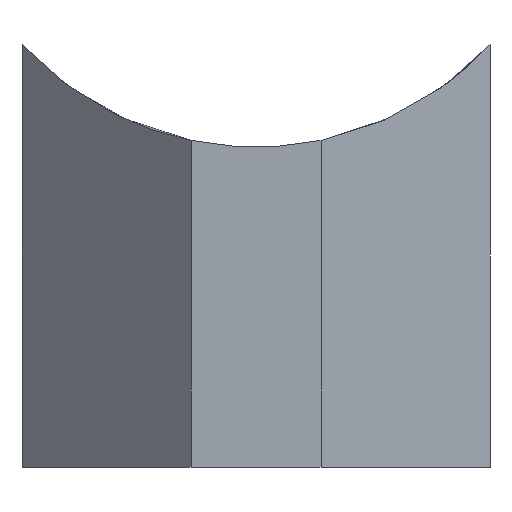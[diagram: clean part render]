
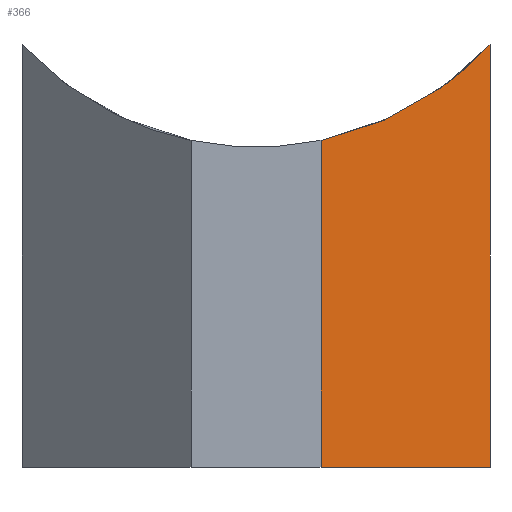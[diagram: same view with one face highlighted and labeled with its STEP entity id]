
A CAD part, front view. The second image highlights one B-rep face of the part: STEP entity #366.
In plain terms, the highlighted planar face has unit normal (0.707, -0.707, 0).
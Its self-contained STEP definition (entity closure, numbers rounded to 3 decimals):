
#12 = CARTESIAN_POINT ( 'NONE',  ( -27.5, -18.5, -19.3 ) ) ;
#37 = ORIENTED_EDGE ( 'NONE', *, *, #287, .F. ) ;
#50 = ORIENTED_EDGE ( 'NONE', *, *, #138, .T. ) ;
#61 = CARTESIAN_POINT ( 'NONE',  ( -27.5, -18.5, -22.51 ) ) ;
#63 = VECTOR ( 'NONE', #460, 1000. ) ;
#72 = VERTEX_POINT ( 'NONE', #232 ) ;
#82 = CARTESIAN_POINT ( 'NONE',  ( -22.746, -13.746, -4.942 ) ) ;
#138 = EDGE_CURVE ( 'NONE', #304, #210, #546, .T. ) ;
#139 = CARTESIAN_POINT ( 'NONE',  ( -21., -12., -22.51 ) ) ;
#141 = DIRECTION ( 'NONE',  ( 0., 0., 1. ) ) ;
#145 = DIRECTION ( 'NONE',  ( 0.707, 0.707, 0. ) ) ;
#210 = VERTEX_POINT ( 'NONE', #536 ) ;
#232 = CARTESIAN_POINT ( 'NONE',  ( -27.5, -18.5, -6.732 ) ) ;
#277 = EDGE_LOOP ( 'NONE', ( #283, #50, #37, #305 ) ) ;
#283 = ORIENTED_EDGE ( 'NONE', *, *, #526, .F. ) ;
#287 = EDGE_CURVE ( 'NONE', #72, #210, #293, .T. ) ;
#293 =( BOUNDED_CURVE ( )  B_SPLINE_CURVE ( 3, ( #458, #504, #82, #415 ),
 .UNSPECIFIED., .F., .F. ) 
 B_SPLINE_CURVE_WITH_KNOTS ( ( 4, 4 ),
 ( 4.918, 5.537 ),
 .UNSPECIFIED. ) 
 CURVE ( )  GEOMETRIC_REPRESENTATION_ITEM ( )  RATIONAL_B_SPLINE_CURVE ( ( 1., 0.968, 0.968, 1. ) ) 
 REPRESENTATION_ITEM ( '' )  );
#298 = VECTOR ( 'NONE', #393, 1000. ) ;
#304 = VERTEX_POINT ( 'NONE', #466 ) ;
#305 = ORIENTED_EDGE ( 'NONE', *, *, #357, .F. ) ;
#330 = LINE ( 'NONE', #424, #63 ) ;
#332 = CARTESIAN_POINT ( 'NONE',  ( -21., -12., -19.3 ) ) ;
#339 = VERTEX_POINT ( 'NONE', #12 ) ;
#357 = EDGE_CURVE ( 'NONE', #339, #72, #330, .T. ) ;
#365 = LINE ( 'NONE', #332, #298 ) ;
#366 = ADVANCED_FACE ( 'NONE', ( #419 ), #557, .T. ) ;
#393 = DIRECTION ( 'NONE',  ( -0.707, -0.707, 0. ) ) ;
#415 = CARTESIAN_POINT ( 'NONE',  ( -21., -12., -3.055 ) ) ;
#419 = FACE_OUTER_BOUND ( 'NONE', #277, .T. ) ;
#422 = AXIS2_PLACEMENT_3D ( 'NONE', #61, #509, #145 ) ;
#424 = CARTESIAN_POINT ( 'NONE',  ( -27.5, -18.5, -22.51 ) ) ;
#458 = CARTESIAN_POINT ( 'NONE',  ( -27.5, -18.5, -6.732 ) ) ;
#460 = DIRECTION ( 'NONE',  ( 0., 0., 1. ) ) ;
#466 = CARTESIAN_POINT ( 'NONE',  ( -21., -12., -19.3 ) ) ;
#474 = VECTOR ( 'NONE', #141, 1000. ) ;
#504 = CARTESIAN_POINT ( 'NONE',  ( -24.983, -15.983, -6.208 ) ) ;
#509 = DIRECTION ( 'NONE',  ( 0.707, -0.707, 0. ) ) ;
#526 = EDGE_CURVE ( 'NONE', #304, #339, #365, .T. ) ;
#536 = CARTESIAN_POINT ( 'NONE',  ( -21., -12., -3.055 ) ) ;
#546 = LINE ( 'NONE', #139, #474 ) ;
#557 = PLANE ( 'NONE',  #422 ) ;
